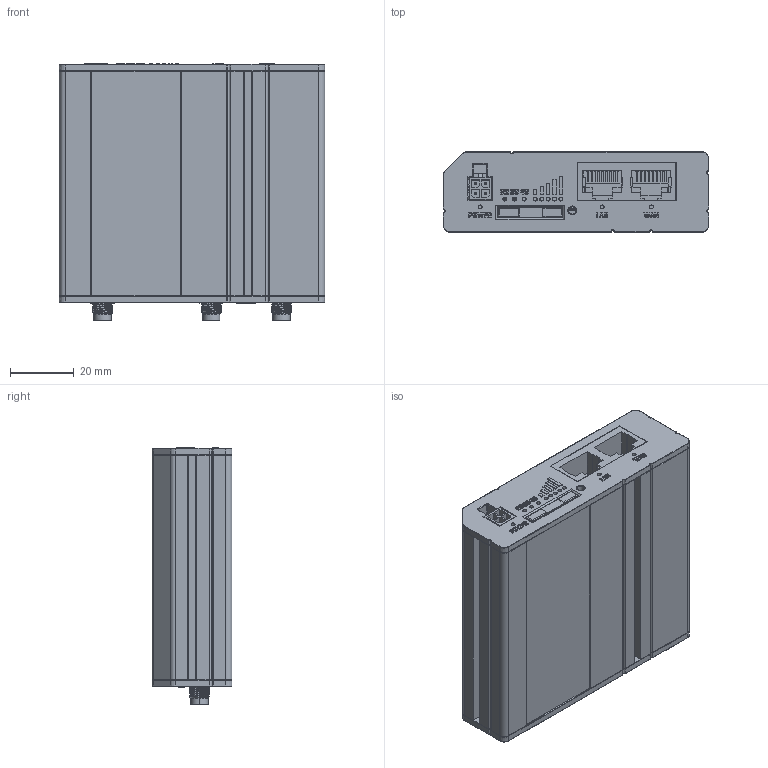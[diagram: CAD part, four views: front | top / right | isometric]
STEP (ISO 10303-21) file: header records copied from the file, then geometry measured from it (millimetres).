
FILE_DESCRIPTION (( 'STEP AP214' ), '1' );
FILE_NAME ('RUT240_assy.STEP', '2018-11-16T11:43:23', ( '' ), ( '' ), 'SwSTEP 2.0', 'SolidWorks 2012', '' );
FILE_SCHEMA (( 'AUTOMOTIVE_DESIGN' ));
Length unit declared in the file: millimetre
Products named in the file (7): SIM_stalciukas; RUT240_08_v2_assy; v9_RUT2xx_rear_panel; v11_RUT2xx_front_panel; RUT2xx_korpusas_v4; DIN7982_2_9x13_0_7982    49,5-mattssons; RUT240_assy
Assembly tree (7 placements, depth 2):
  RUT240_assy
    RUT2xx_korpusas_v4
    v9_RUT2xx_rear_panel
    RUT240_08_v2_assy
    v11_RUT2xx_front_panel
    DIN7982_2_9x13_0_7982    49,5-mattssons  x2
    SIM_stalciukas
Bounding box: 83 x 25 x 80.25 mm (x, y, z)
Volume: 50102.6 mm3; surface area: 69799.2 mm2
Topology: 15 solids, 17 shells, 3766 faces, 10073 edges, 6415 vertices
Faces by surface type: plane 2144, cylinder 743, bspline 523, cone 170, torus 120, sphere 66
Entity records: 156425 total; most frequent: CARTESIAN_POINT 49733, ORIENTED_EDGE 19632, DIRECTION 16082, EDGE_CURVE 9816, LINE 6610, VECTOR 6610, VERTEX_POINT 6285, AXIS2_PLACEMENT_3D 4736
